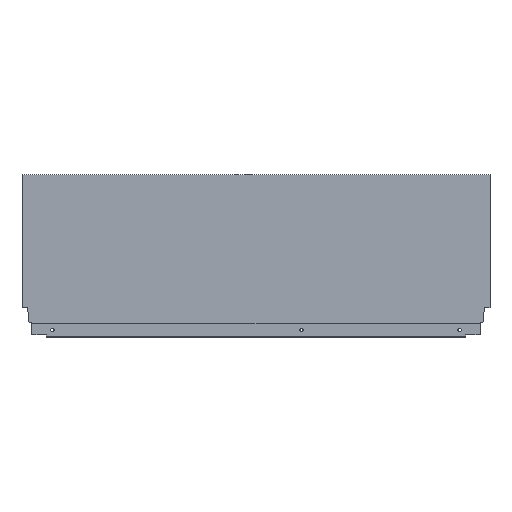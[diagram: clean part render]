
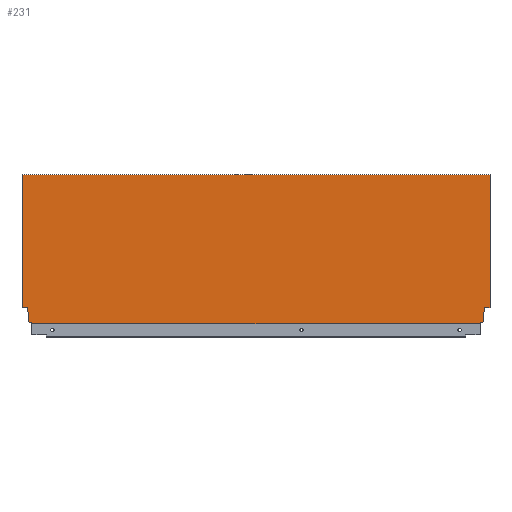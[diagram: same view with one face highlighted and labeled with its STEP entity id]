
A CAD part, top view. The second image highlights one B-rep face of the part: STEP entity #231.
In plain terms, the highlighted planar face has unit normal (0, 0, 1).
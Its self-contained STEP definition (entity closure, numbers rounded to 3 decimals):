
#33 = AXIS2_PLACEMENT_3D ( 'NONE', #475, #905, #906 ) ;
#56 = EDGE_CURVE ( 'NONE', #518, #513, #1212, .T. ) ;
#67 = EDGE_CURVE ( 'NONE', #610, #550, #1196, .T. ) ;
#68 = EDGE_CURVE ( 'NONE', #587, #588, #1199, .T. ) ;
#72 = EDGE_CURVE ( 'NONE', #519, #549, #1189, .T. ) ;
#75 = EDGE_CURVE ( 'NONE', #588, #516, #1209, .T. ) ;
#76 = EDGE_CURVE ( 'NONE', #623, #529, #1178, .T. ) ;
#94 = EDGE_CURVE ( 'NONE', #550, #518, #1124, .T. ) ;
#111 = EDGE_CURVE ( 'NONE', #554, #631, #1101, .T. ) ;
#112 = EDGE_CURVE ( 'NONE', #516, #628, #1099, .T. ) ;
#128 = EDGE_CURVE ( 'NONE', #529, #549, #1158, .T. ) ;
#132 = EDGE_CURVE ( 'NONE', #628, #623, #1278, .T. ) ;
#142 = EDGE_CURVE ( 'NONE', #554, #587, #207, .T. ) ;
#175 = EDGE_CURVE ( 'NONE', #513, #631, #1062, .T. ) ;
#202 = VECTOR ( 'NONE', #793, 1000. ) ;
#207 = LINE ( 'NONE', #801, #202 ) ;
#231 = ADVANCED_FACE ( 'NONE', ( #659 ), #509, .T. ) ;
#280 = DIRECTION ( 'NONE',  ( -0.174, -0.985, 0. ) ) ;
#281 = CARTESIAN_POINT ( 'NONE',  ( -7.06, 21.2, 7.5 ) ) ;
#282 = DIRECTION ( 'NONE',  ( 0., -1., 0. ) ) ;
#289 = CARTESIAN_POINT ( 'NONE',  ( -617., 0., 7.5 ) ) ;
#310 = DIRECTION ( 'NONE',  ( 0., 1., 0. ) ) ;
#311 = CARTESIAN_POINT ( 'NONE',  ( -608.1, 10.765, 7.5 ) ) ;
#339 = CARTESIAN_POINT ( 'NONE',  ( -8.9, 10.765, 7.5 ) ) ;
#356 = DIRECTION ( 'NONE',  ( -0.94, -0.342, 0. ) ) ;
#357 = CARTESIAN_POINT ( 'NONE',  ( -8.9, 2.64, 7.5 ) ) ;
#358 = DIRECTION ( 'NONE',  ( -1., 0., 0. ) ) ;
#362 = CARTESIAN_POINT ( 'NONE',  ( 0., 21.2, 7.5 ) ) ;
#363 = DIRECTION ( 'NONE',  ( 1., 0., 0. ) ) ;
#366 = CARTESIAN_POINT ( 'NONE',  ( -617., 0., 7.5 ) ) ;
#373 = DIRECTION ( 'NONE',  ( 0., -1., 0. ) ) ;
#374 = DIRECTION ( 'NONE',  ( -0.94, 0.342, 0. ) ) ;
#375 = CARTESIAN_POINT ( 'NONE',  ( -608.1, 2.64, 7.5 ) ) ;
#377 = CARTESIAN_POINT ( 'NONE',  ( 0., 0., 7.5 ) ) ;
#396 = DIRECTION ( 'NONE',  ( -0.174, 0.985, 0. ) ) ;
#398 = CARTESIAN_POINT ( 'NONE',  ( -617., 196.7, 7.5 ) ) ;
#412 = CARTESIAN_POINT ( 'NONE',  ( -603.996, 1.146, 7.5 ) ) ;
#424 = CARTESIAN_POINT ( 'NONE',  ( -608.1, 2.64, 7.5 ) ) ;
#425 = CARTESIAN_POINT ( 'NONE',  ( -13.004, 0., 7.5 ) ) ;
#435 = CARTESIAN_POINT ( 'NONE',  ( -13.004, 1.146, 7.5 ) ) ;
#443 = CARTESIAN_POINT ( 'NONE',  ( -609.94, 21.2, 7.5 ) ) ;
#448 = CARTESIAN_POINT ( 'NONE',  ( -603.996, 0., 7.5 ) ) ;
#475 = CARTESIAN_POINT ( 'NONE',  ( -617., 0., 7.5 ) ) ;
#494 = CARTESIAN_POINT ( 'NONE',  ( 0., 21.2, 7.5 ) ) ;
#509 = PLANE ( 'NONE',  #33 ) ;
#513 = VERTEX_POINT ( 'NONE', #574 ) ;
#516 = VERTEX_POINT ( 'NONE', #583 ) ;
#518 = VERTEX_POINT ( 'NONE', #598 ) ;
#519 = VERTEX_POINT ( 'NONE', #448 ) ;
#529 = VERTEX_POINT ( 'NONE', #435 ) ;
#547 = CARTESIAN_POINT ( 'NONE',  ( -13.004, 1.146, 7.5 ) ) ;
#549 = VERTEX_POINT ( 'NONE', #425 ) ;
#550 = VERTEX_POINT ( 'NONE', #424 ) ;
#553 = DIRECTION ( 'NONE',  ( 0., -1., 0. ) ) ;
#554 = VERTEX_POINT ( 'NONE', #398 ) ;
#574 = CARTESIAN_POINT ( 'NONE',  ( -609.94, 21.2, 7.5 ) ) ;
#583 = CARTESIAN_POINT ( 'NONE',  ( -7.06, 21.2, 7.5 ) ) ;
#587 = VERTEX_POINT ( 'NONE', #823 ) ;
#588 = VERTEX_POINT ( 'NONE', #494 ) ;
#598 = CARTESIAN_POINT ( 'NONE',  ( -608.1, 10.765, 7.5 ) ) ;
#610 = VERTEX_POINT ( 'NONE', #412 ) ;
#623 = VERTEX_POINT ( 'NONE', #833 ) ;
#628 = VERTEX_POINT ( 'NONE', #339 ) ;
#631 = VERTEX_POINT ( 'NONE', #876 ) ;
#659 = FACE_OUTER_BOUND ( 'NONE', #1361, .T. ) ;
#736 = LINE ( 'NONE', #1056, #737 ) ;
#737 = VECTOR ( 'NONE', #1057, 1000. ) ;
#773 = EDGE_CURVE ( 'NONE', #519, #610, #736, .T. ) ;
#793 = DIRECTION ( 'NONE',  ( 1., 0., 0. ) ) ;
#801 = CARTESIAN_POINT ( 'NONE',  ( -617., 196.7, 7.5 ) ) ;
#823 = CARTESIAN_POINT ( 'NONE',  ( 0., 196.7, 7.5 ) ) ;
#833 = CARTESIAN_POINT ( 'NONE',  ( -8.9, 2.64, 7.5 ) ) ;
#876 = CARTESIAN_POINT ( 'NONE',  ( -617., 21.2, 7.5 ) ) ;
#894 = CARTESIAN_POINT ( 'NONE',  ( -8.9, 10.765, 7.5 ) ) ;
#905 = DIRECTION ( 'NONE',  ( 0., 0., 1. ) ) ;
#906 = DIRECTION ( 'NONE',  ( 1., 0., 0. ) ) ;
#953 = DIRECTION ( 'NONE',  ( 0., -1., 0. ) ) ;
#978 = CARTESIAN_POINT ( 'NONE',  ( -622., 21.2, 7.5 ) ) ;
#979 = DIRECTION ( 'NONE',  ( -1., 0., 0. ) ) ;
#1056 = CARTESIAN_POINT ( 'NONE',  ( -603.996, 1.146, 7.5 ) ) ;
#1057 = DIRECTION ( 'NONE',  ( 0., 1., 0. ) ) ;
#1062 = LINE ( 'NONE', #978, #1065 ) ;
#1065 = VECTOR ( 'NONE', #979, 1000. ) ;
#1098 = VECTOR ( 'NONE', #280, 1000. ) ;
#1099 = LINE ( 'NONE', #281, #1098 ) ;
#1101 = LINE ( 'NONE', #289, #1110 ) ;
#1110 = VECTOR ( 'NONE', #282, 1000. ) ;
#1123 = VECTOR ( 'NONE', #310, 1000. ) ;
#1124 = LINE ( 'NONE', #311, #1123 ) ;
#1157 = VECTOR ( 'NONE', #553, 1000. ) ;
#1158 = LINE ( 'NONE', #547, #1157 ) ;
#1177 = VECTOR ( 'NONE', #356, 1000. ) ;
#1178 = LINE ( 'NONE', #357, #1177 ) ;
#1180 = VECTOR ( 'NONE', #358, 1000. ) ;
#1186 = VECTOR ( 'NONE', #363, 1000. ) ;
#1189 = LINE ( 'NONE', #366, #1186 ) ;
#1194 = VECTOR ( 'NONE', #373, 1000. ) ;
#1195 = VECTOR ( 'NONE', #374, 1000. ) ;
#1196 = LINE ( 'NONE', #375, #1195 ) ;
#1199 = LINE ( 'NONE', #377, #1194 ) ;
#1208 = VECTOR ( 'NONE', #396, 1000. ) ;
#1209 = LINE ( 'NONE', #362, #1180 ) ;
#1212 = LINE ( 'NONE', #443, #1208 ) ;
#1277 = VECTOR ( 'NONE', #953, 1000. ) ;
#1278 = LINE ( 'NONE', #894, #1277 ) ;
#1361 = EDGE_LOOP ( 'NONE', ( #1510, #1509, #1520, #1502, #1501, #1530, #1531, #1545, #1469, #1475, #1474, #1481, #1478, #1477 ) ) ;
#1469 = ORIENTED_EDGE ( 'NONE', *, *, #76, .F. ) ;
#1474 = ORIENTED_EDGE ( 'NONE', *, *, #112, .F. ) ;
#1475 = ORIENTED_EDGE ( 'NONE', *, *, #132, .F. ) ;
#1477 = ORIENTED_EDGE ( 'NONE', *, *, #142, .F. ) ;
#1478 = ORIENTED_EDGE ( 'NONE', *, *, #68, .F. ) ;
#1481 = ORIENTED_EDGE ( 'NONE', *, *, #75, .F. ) ;
#1501 = ORIENTED_EDGE ( 'NONE', *, *, #67, .F. ) ;
#1502 = ORIENTED_EDGE ( 'NONE', *, *, #94, .F. ) ;
#1509 = ORIENTED_EDGE ( 'NONE', *, *, #175, .F. ) ;
#1510 = ORIENTED_EDGE ( 'NONE', *, *, #111, .T. ) ;
#1520 = ORIENTED_EDGE ( 'NONE', *, *, #56, .F. ) ;
#1530 = ORIENTED_EDGE ( 'NONE', *, *, #773, .F. ) ;
#1531 = ORIENTED_EDGE ( 'NONE', *, *, #72, .T. ) ;
#1545 = ORIENTED_EDGE ( 'NONE', *, *, #128, .F. ) ;
